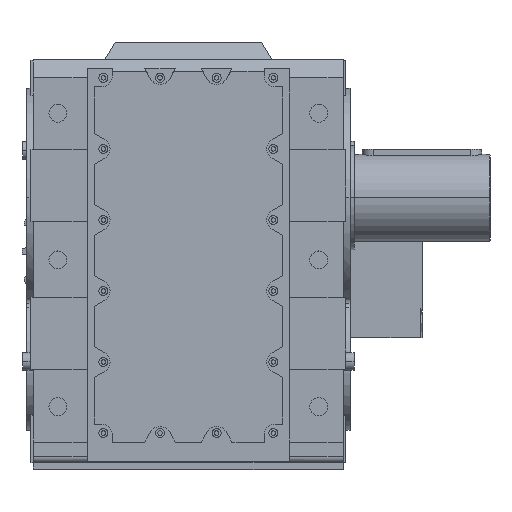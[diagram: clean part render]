
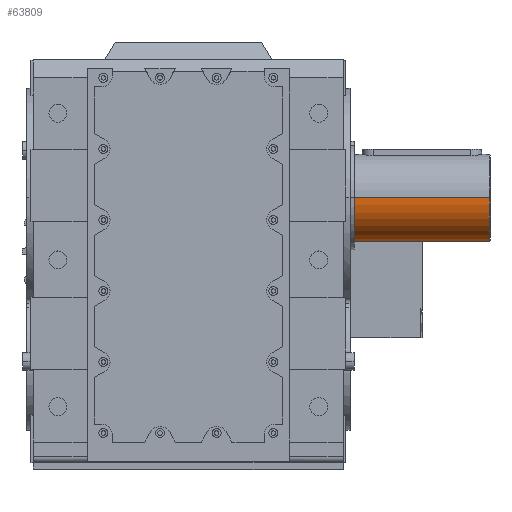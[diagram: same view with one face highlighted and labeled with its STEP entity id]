
A CAD part, top view. The second image highlights one B-rep face of the part: STEP entity #63809.
In plain terms, the highlighted cylindrical face has radius 80 mm (diameter 160 mm), a partial arc.
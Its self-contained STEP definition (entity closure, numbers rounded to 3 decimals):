
#62942 = CYLINDRICAL_SURFACE('',#62943,80.);
#62943 = AXIS2_PLACEMENT_3D('',#62944,#62945,#62946);
#62944 = CARTESIAN_POINT('',(0.,0.,0.));
#62945 = DIRECTION('',(-1.,0.,0.));
#62946 = DIRECTION('',(0.,0.,1.));
#63544 = VERTEX_POINT('',#63545);
#63545 = CARTESIAN_POINT('',(553.5,0.,80.));
#63546 = VERTEX_POINT('',#63547);
#63547 = CARTESIAN_POINT('',(553.5,0.,-80.));
#63595 = EDGE_CURVE('',#63546,#63596,#63598,.T.);
#63596 = VERTEX_POINT('',#63597);
#63597 = CARTESIAN_POINT('',(305.,0.,-80.));
#63598 = SURFACE_CURVE('',#63599,(#63603,#63609),.PCURVE_S1.);
#63599 = LINE('',#63600,#63601);
#63600 = CARTESIAN_POINT('',(0.,0.,-80.));
#63601 = VECTOR('',#63602,1.);
#63602 = DIRECTION('',(-1.,0.,0.));
#63603 = PCURVE('',#62942,#63604);
#63604 = DEFINITIONAL_REPRESENTATION('',(#63605),#63608);
#63605 = B_SPLINE_CURVE_WITH_KNOTS('',1,(#63606,#63607),.UNSPECIFIED.,
  .F.,.F.,(2,2),(-553.5,-305.),.PIECEWISE_BEZIER_KNOTS.);
#63606 = CARTESIAN_POINT('',(3.142,-553.5));
#63607 = CARTESIAN_POINT('',(3.142,-305.));
#63608 = ( GEOMETRIC_REPRESENTATION_CONTEXT(2) 
PARAMETRIC_REPRESENTATION_CONTEXT() REPRESENTATION_CONTEXT('2D SPACE',''
  ) );
#63609 = PCURVE('',#63610,#63615);
#63610 = CYLINDRICAL_SURFACE('',#63611,80.);
#63611 = AXIS2_PLACEMENT_3D('',#63612,#63613,#63614);
#63612 = CARTESIAN_POINT('',(0.,0.,0.));
#63613 = DIRECTION('',(-1.,0.,0.));
#63614 = DIRECTION('',(0.,0.,1.));
#63615 = DEFINITIONAL_REPRESENTATION('',(#63616),#63619);
#63616 = B_SPLINE_CURVE_WITH_KNOTS('',1,(#63617,#63618),.UNSPECIFIED.,
  .F.,.F.,(2,2),(-553.5,-305.),.PIECEWISE_BEZIER_KNOTS.);
#63617 = CARTESIAN_POINT('',(3.142,-553.5));
#63618 = CARTESIAN_POINT('',(3.142,-305.));
#63619 = ( GEOMETRIC_REPRESENTATION_CONTEXT(2) 
PARAMETRIC_REPRESENTATION_CONTEXT() REPRESENTATION_CONTEXT('2D SPACE',''
  ) );
#63622 = VERTEX_POINT('',#63623);
#63623 = CARTESIAN_POINT('',(305.,0.,80.));
#63637 = PLANE('',#63638);
#63638 = AXIS2_PLACEMENT_3D('',#63639,#63640,#63641);
#63639 = CARTESIAN_POINT('',(305.,80.,0.));
#63640 = DIRECTION('',(-1.,0.,0.));
#63641 = DIRECTION('',(0.,0.,1.));
#63649 = EDGE_CURVE('',#63544,#63622,#63650,.T.);
#63650 = SURFACE_CURVE('',#63651,(#63655,#63661),.PCURVE_S1.);
#63651 = LINE('',#63652,#63653);
#63652 = CARTESIAN_POINT('',(0.,0.,80.));
#63653 = VECTOR('',#63654,1.);
#63654 = DIRECTION('',(-1.,0.,0.));
#63655 = PCURVE('',#62942,#63656);
#63656 = DEFINITIONAL_REPRESENTATION('',(#63657),#63660);
#63657 = B_SPLINE_CURVE_WITH_KNOTS('',1,(#63658,#63659),.UNSPECIFIED.,
  .F.,.F.,(2,2),(-553.5,-305.),.PIECEWISE_BEZIER_KNOTS.);
#63658 = CARTESIAN_POINT('',(0.,-553.5));
#63659 = CARTESIAN_POINT('',(0.,-305.));
#63660 = ( GEOMETRIC_REPRESENTATION_CONTEXT(2) 
PARAMETRIC_REPRESENTATION_CONTEXT() REPRESENTATION_CONTEXT('2D SPACE',''
  ) );
#63661 = PCURVE('',#63610,#63662);
#63662 = DEFINITIONAL_REPRESENTATION('',(#63663),#63666);
#63663 = B_SPLINE_CURVE_WITH_KNOTS('',1,(#63664,#63665),.UNSPECIFIED.,
  .F.,.F.,(2,2),(-553.5,-305.),.PIECEWISE_BEZIER_KNOTS.);
#63664 = CARTESIAN_POINT('',(6.283,-553.5));
#63665 = CARTESIAN_POINT('',(6.283,-305.));
#63666 = ( GEOMETRIC_REPRESENTATION_CONTEXT(2) 
PARAMETRIC_REPRESENTATION_CONTEXT() REPRESENTATION_CONTEXT('2D SPACE',''
  ) );
#63789 = EDGE_CURVE('',#63596,#63622,#63790,.T.);
#63790 = SURFACE_CURVE('',#63791,(#63796,#63803),.PCURVE_S1.);
#63791 = CIRCLE('',#63792,80.);
#63792 = AXIS2_PLACEMENT_3D('',#63793,#63794,#63795);
#63793 = CARTESIAN_POINT('',(305.,0.,0.));
#63794 = DIRECTION('',(-1.,0.,0.));
#63795 = DIRECTION('',(0.,0.,1.));
#63796 = PCURVE('',#63637,#63797);
#63797 = DEFINITIONAL_REPRESENTATION('',(#63798),#63802);
#63798 = CIRCLE('',#63799,80.);
#63799 = AXIS2_PLACEMENT_2D('',#63800,#63801);
#63800 = CARTESIAN_POINT('',(0.,-80.));
#63801 = DIRECTION('',(1.,0.));
#63802 = ( GEOMETRIC_REPRESENTATION_CONTEXT(2) 
PARAMETRIC_REPRESENTATION_CONTEXT() REPRESENTATION_CONTEXT('2D SPACE',''
  ) );
#63803 = PCURVE('',#63610,#63804);
#63804 = DEFINITIONAL_REPRESENTATION('',(#63805),#63808);
#63805 = B_SPLINE_CURVE_WITH_KNOTS('',1,(#63806,#63807),.UNSPECIFIED.,
  .F.,.F.,(2,2),(3.142,6.283),.PIECEWISE_BEZIER_KNOTS.);
#63806 = CARTESIAN_POINT('',(3.142,-305.));
#63807 = CARTESIAN_POINT('',(6.283,-305.));
#63808 = ( GEOMETRIC_REPRESENTATION_CONTEXT(2) 
PARAMETRIC_REPRESENTATION_CONTEXT() REPRESENTATION_CONTEXT('2D SPACE',''
  ) );
#63809 = ADVANCED_FACE('',(#63810),#63610,.T.);
#63810 = FACE_BOUND('',#63811,.T.);
#63811 = EDGE_LOOP('',(#63812,#63813,#63861,#63862));
#63812 = ORIENTED_EDGE('',*,*,#63595,.F.);
#63813 = ORIENTED_EDGE('',*,*,#63814,.T.);
#63814 = EDGE_CURVE('',#63546,#63544,#63815,.T.);
#63815 = SURFACE_CURVE('',#63816,(#63821,#63827),.PCURVE_S1.);
#63816 = CIRCLE('',#63817,80.);
#63817 = AXIS2_PLACEMENT_3D('',#63818,#63819,#63820);
#63818 = CARTESIAN_POINT('',(553.5,0.,0.));
#63819 = DIRECTION('',(-1.,0.,0.));
#63820 = DIRECTION('',(0.,0.,1.));
#63821 = PCURVE('',#63610,#63822);
#63822 = DEFINITIONAL_REPRESENTATION('',(#63823),#63826);
#63823 = B_SPLINE_CURVE_WITH_KNOTS('',1,(#63824,#63825),.UNSPECIFIED.,
  .F.,.F.,(2,2),(3.142,6.283),.PIECEWISE_BEZIER_KNOTS.);
#63824 = CARTESIAN_POINT('',(3.142,-553.5));
#63825 = CARTESIAN_POINT('',(6.283,-553.5));
#63826 = ( GEOMETRIC_REPRESENTATION_CONTEXT(2) 
PARAMETRIC_REPRESENTATION_CONTEXT() REPRESENTATION_CONTEXT('2D SPACE',''
  ) );
#63827 = PCURVE('',#63828,#63833);
#63828 = CONICAL_SURFACE('',#63829,78.5,0.785);
#63829 = AXIS2_PLACEMENT_3D('',#63830,#63831,#63832);
#63830 = CARTESIAN_POINT('',(555.,0.,0.));
#63831 = DIRECTION('',(-1.,0.,0.));
#63832 = DIRECTION('',(0.,0.,1.));
#63833 = DEFINITIONAL_REPRESENTATION('',(#63834),#63860);
#63834 = B_SPLINE_CURVE_WITH_KNOTS('',3,(#63835,#63836,#63837,#63838,
    #63839,#63840,#63841,#63842,#63843,#63844,#63845,#63846,#63847,
    #63848,#63849,#63850,#63851,#63852,#63853,#63854,#63855,#63856,
    #63857,#63858,#63859),.UNSPECIFIED.,.F.,.F.,(4,1,1,1,1,1,1,1,1,1,1,1
    ,1,1,1,1,1,1,1,1,1,1,4),(3.142,3.284,3.427
    ,3.57,3.713,3.856,3.998,
    4.141,4.284,4.427,4.57,
    4.712,4.855,4.998,5.141,
    5.284,5.426,5.569,5.712,
    5.855,5.998,6.14,6.283),
  .QUASI_UNIFORM_KNOTS.);
#63835 = CARTESIAN_POINT('',(3.142,1.5));
#63836 = CARTESIAN_POINT('',(3.189,1.5));
#63837 = CARTESIAN_POINT('',(3.284,1.5));
#63838 = CARTESIAN_POINT('',(3.427,1.5));
#63839 = CARTESIAN_POINT('',(3.57,1.5));
#63840 = CARTESIAN_POINT('',(3.713,1.5));
#63841 = CARTESIAN_POINT('',(3.856,1.5));
#63842 = CARTESIAN_POINT('',(3.998,1.5));
#63843 = CARTESIAN_POINT('',(4.141,1.5));
#63844 = CARTESIAN_POINT('',(4.284,1.5));
#63845 = CARTESIAN_POINT('',(4.427,1.5));
#63846 = CARTESIAN_POINT('',(4.57,1.5));
#63847 = CARTESIAN_POINT('',(4.712,1.5));
#63848 = CARTESIAN_POINT('',(4.855,1.5));
#63849 = CARTESIAN_POINT('',(4.998,1.5));
#63850 = CARTESIAN_POINT('',(5.141,1.5));
#63851 = CARTESIAN_POINT('',(5.284,1.5));
#63852 = CARTESIAN_POINT('',(5.426,1.5));
#63853 = CARTESIAN_POINT('',(5.569,1.5));
#63854 = CARTESIAN_POINT('',(5.712,1.5));
#63855 = CARTESIAN_POINT('',(5.855,1.5));
#63856 = CARTESIAN_POINT('',(5.998,1.5));
#63857 = CARTESIAN_POINT('',(6.14,1.5));
#63858 = CARTESIAN_POINT('',(6.236,1.5));
#63859 = CARTESIAN_POINT('',(6.283,1.5));
#63860 = ( GEOMETRIC_REPRESENTATION_CONTEXT(2) 
PARAMETRIC_REPRESENTATION_CONTEXT() REPRESENTATION_CONTEXT('2D SPACE',''
  ) );
#63861 = ORIENTED_EDGE('',*,*,#63649,.T.);
#63862 = ORIENTED_EDGE('',*,*,#63789,.F.);
